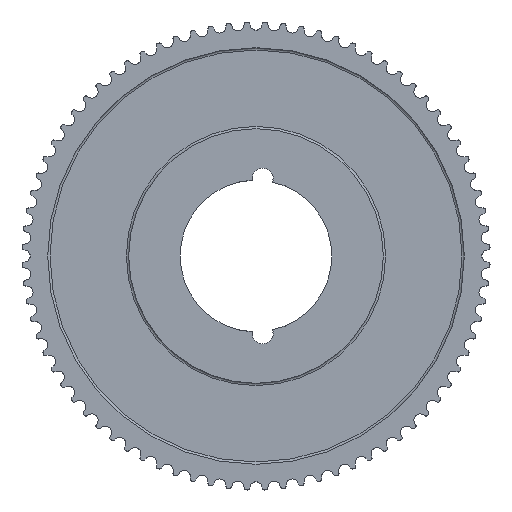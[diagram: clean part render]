
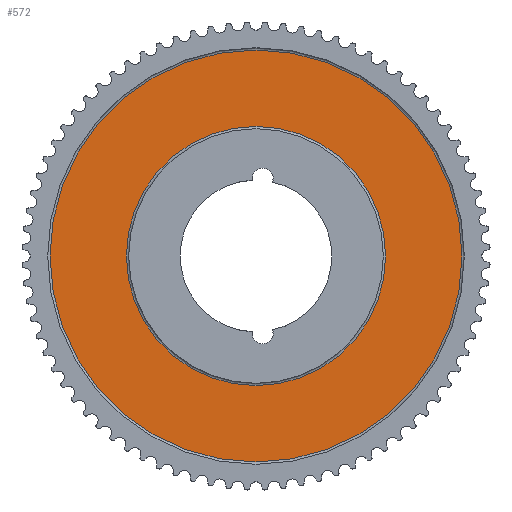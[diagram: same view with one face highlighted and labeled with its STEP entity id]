
A CAD part, left-side view. The second image highlights one B-rep face of the part: STEP entity #572.
In plain terms, the highlighted planar face has unit normal (-1, 0, 0).
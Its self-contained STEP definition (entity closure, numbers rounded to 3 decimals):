
#572 = ADVANCED_FACE( '', ( #1581, #1582 ), #1583, .T. );
#1581 = FACE_BOUND( '', #2595, .T. );
#1582 = FACE_OUTER_BOUND( '', #2596, .T. );
#1583 = PLANE( '', #2597 );
#2595 = EDGE_LOOP( '', ( #7029 ) );
#2596 = EDGE_LOOP( '', ( #7030 ) );
#2597 = AXIS2_PLACEMENT_3D( '', #7031, #7032, #7033 );
#7029 = ORIENTED_EDGE( '', *, *, #8512, .T. );
#7030 = ORIENTED_EDGE( '', *, *, #8511, .F. );
#7031 = CARTESIAN_POINT( '', ( 9.333, 89., 0. ) );
#7032 = DIRECTION( '', ( -1., 0., 0. ) );
#7033 = DIRECTION( '', ( 0., 0., 1. ) );
#8511 = EDGE_CURVE( '', #10962, #10962, #10963, .T. );
#8512 = EDGE_CURVE( '', #10964, #10964, #10965, .T. );
#10962 = VERTEX_POINT( '', #14271 );
#10963 = CIRCLE( '', #14272, 89. );
#10964 = VERTEX_POINT( '', #14273 );
#10965 = CIRCLE( '', #14274, 56. );
#14271 = CARTESIAN_POINT( '', ( 9.333, 0., -89. ) );
#14272 = AXIS2_PLACEMENT_3D( '', #17057, #17058, #17059 );
#14273 = CARTESIAN_POINT( '', ( 9.333, 0., -56. ) );
#14274 = AXIS2_PLACEMENT_3D( '', #17060, #17061, #17062 );
#17057 = CARTESIAN_POINT( '', ( 9.333, 0., 0. ) );
#17058 = DIRECTION( '', ( 1., 0., 0. ) );
#17059 = DIRECTION( '', ( 0., 0., -1. ) );
#17060 = CARTESIAN_POINT( '', ( 9.333, 0., 0. ) );
#17061 = DIRECTION( '', ( 1., 0., 0. ) );
#17062 = DIRECTION( '', ( 0., 0., -1. ) );
